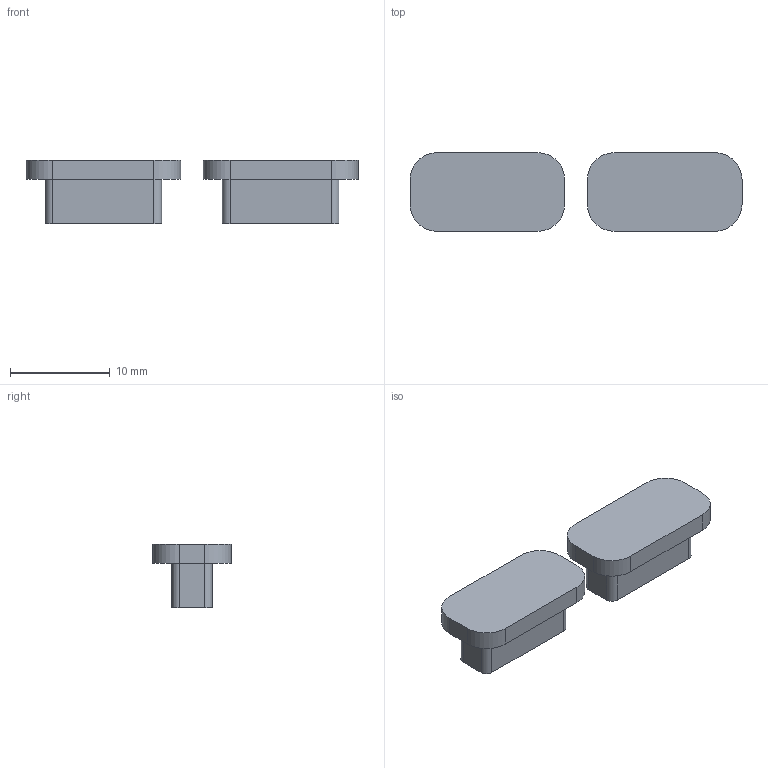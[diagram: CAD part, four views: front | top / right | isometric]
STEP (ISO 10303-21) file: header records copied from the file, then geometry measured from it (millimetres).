
FILE_DESCRIPTION (( 'STEP AP203' ), '1' );
FILE_NAME ('Start Select Test.step', '2015-03-14T23:36:37', ( '' ), ( '' ), 'SwSTEP 2.0', 'SolidWorks 2013', '' );
FILE_SCHEMA (( 'CONFIG_CONTROL_DESIGN' ));
Length unit declared in the file: inch
Products named in the file (1): Start Select Test
Bounding box: 33.27 x 7.87 x 6.35 mm (x, y, z)
Volume: 859.3 mm3; surface area: 1080.5 mm2
Topology: 4 solids, 4 shells, 40 faces, 96 edges, 64 vertices
Faces by surface type: plane 24, cylinder 16
Entity records: 1245 total; most frequent: DIRECTION 210, CARTESIAN_POINT 201, ORIENTED_EDGE 192, EDGE_CURVE 96, AXIS2_PLACEMENT_3D 73, VECTOR 64, LINE 64, VERTEX_POINT 64
